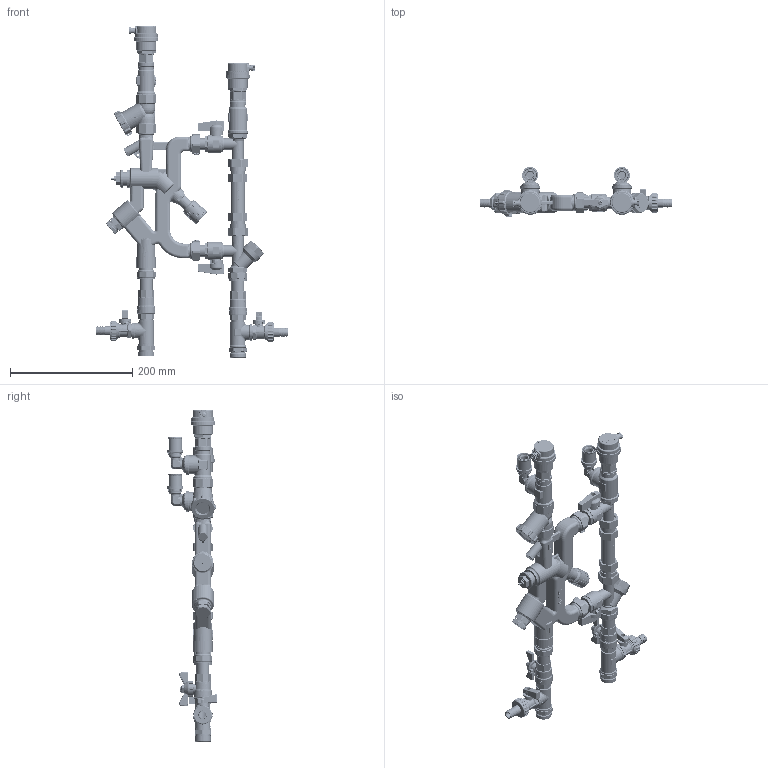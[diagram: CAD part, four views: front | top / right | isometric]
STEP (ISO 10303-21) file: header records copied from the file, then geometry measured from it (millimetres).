
FILE_DESCRIPTION(('TFLEX Exchange Step'),'2;1');
FILE_NAME('VT.IVCMP.0000.R.L.stp', '2023-11-17T18:25:15+03:00',('denis'),('Unknown organisation'),'TFLEX Exchange 2023.0','T-FLEX CAD','Unknown authorisation');
FILE_SCHEMA( ('AUTOMOTIVE_DESIGN { 1 0 10303 214 1 1 1 1 }') );
Length unit declared in the file: millimetre
Products named in the file (1): VT.IVCMP.0000.R.L
Bounding box: 315.4 x 81.16 x 543.21 mm (x, y, z)
Volume: 936542.6 mm3; surface area: 364594.9 mm2
Topology: 89 solids, 91 shells, 12283 faces, 31675 edges, 20024 vertices
Faces by surface type: cylinder 4074, plane 3330, bspline 3194, torus 976, cone 441, sphere 268
Full cylindrical faces by diameter (mm): 3.5 x2, 4 x1, 4.5 x2, 6 x3, 7 x4, 8 x7, 8.9 x2, 8.917 x1, 9 x2, 10 x3, 11 x3, 11.1 x2, 12 x4, 12.5 x4, 13.5 x3, 13.9 x2, 14 x2, 14.1 x1, 14.5 x2, 14.6 x2, 15 x16, 15.5 x2, 15.729 x2, 15.9 x2, 16 x6, 16.6 x1, 17 x2, 17.2 x1, 17.9 x6, 18 x7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
Entity records: 578671 total; most frequent: CARTESIAN_POINT 316738, ORIENTED_EDGE 63008, DIRECTION 40322, EDGE_CURVE 31504, VERTEX_POINT 20017, AXIS2_PLACEMENT_3D 15020, B_SPLINE_CURVE_WITH_KNOTS 14611, EDGE_LOOP 13059
